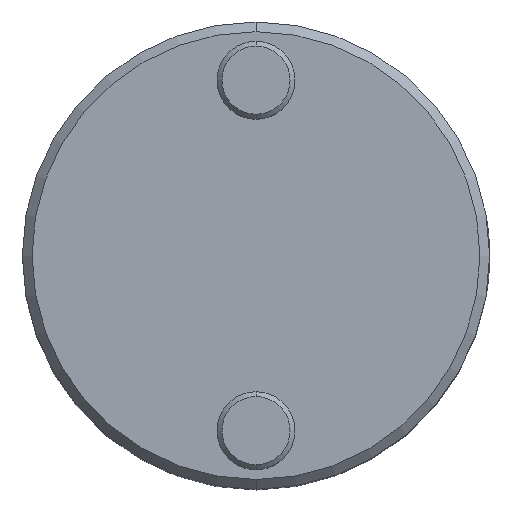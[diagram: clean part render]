
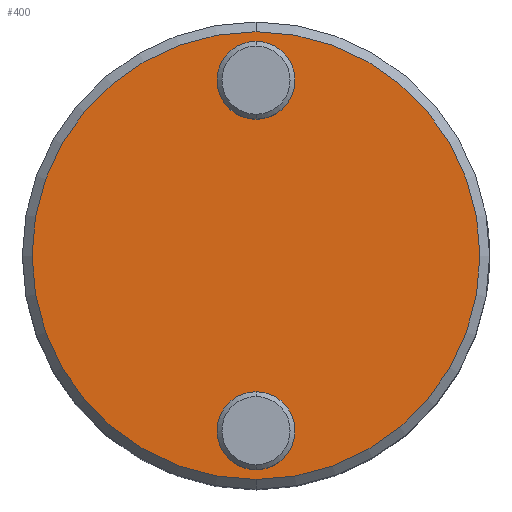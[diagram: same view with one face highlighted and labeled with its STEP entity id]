
A CAD part, top view. The second image highlights one B-rep face of the part: STEP entity #400.
In plain terms, the highlighted planar face has unit normal (0, 0, 1).
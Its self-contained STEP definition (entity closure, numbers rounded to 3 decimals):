
#1=CARTESIAN_POINT('',(0.,0.,0.));
#2=DIRECTION('',(0.,0.,1.));
#3=DIRECTION('',(0.,1.,0.));
#4=AXIS2_PLACEMENT_3D('',#1,#2,#3);
#6=CARTESIAN_POINT('',(0.,0.,
0.));
#7=DIRECTION('',(0.,0.,1.));
#8=DIRECTION('',(0.,-1.,0.));
#9=AXIS2_PLACEMENT_3D('',#6,#7,#8);
#11=CARTESIAN_POINT('',(0.,18.,0.));
#12=DIRECTION('',(0.,0.,1.));
#13=DIRECTION('',(0.,1.,0.));
#14=AXIS2_PLACEMENT_3D('',#11,#12,#13);
#16=CARTESIAN_POINT('',(0.,18.,0.));
#17=DIRECTION('',(0.,0.,1.));
#18=DIRECTION('',(0.,-1.,0.));
#19=AXIS2_PLACEMENT_3D('',#16,#17,#18);
#21=CARTESIAN_POINT('',(0.,-18.,0.));
#22=DIRECTION('',(0.,0.,1.));
#23=DIRECTION('',(0.,1.,0.));
#24=AXIS2_PLACEMENT_3D('',#21,#22,#23);
#26=CARTESIAN_POINT('',(0.,-18.,0.));
#27=DIRECTION('',(0.,0.,1.));
#28=DIRECTION('',(0.,-1.,0.));
#29=AXIS2_PLACEMENT_3D('',#26,#27,#28);
#327=CARTESIAN_POINT('',(0.,23.,0.));
#328=CARTESIAN_POINT('',(0.,-23.,0.));
#329=VERTEX_POINT('',#327);
#330=VERTEX_POINT('',#328);
#353=CARTESIAN_POINT('',(0.,22.,0.));
#354=CARTESIAN_POINT('',(0.,14.,0.));
#355=VERTEX_POINT('',#353);
#356=VERTEX_POINT('',#354);
#357=CARTESIAN_POINT('',(0.,-14.,0.));
#358=CARTESIAN_POINT('',(0.,-22.,0.));
#359=VERTEX_POINT('',#357);
#360=VERTEX_POINT('',#358);
#377=CARTESIAN_POINT('',(0.,0.,0.));
#378=DIRECTION('',(0.,0.,-1.));
#379=DIRECTION('',(0.,-1.,0.));
#380=AXIS2_PLACEMENT_3D('',#377,#378,#379);
#381=PLANE('',#380);
#383=ORIENTED_EDGE('',*,*,#382,.F.);
#385=ORIENTED_EDGE('',*,*,#384,.F.);
#386=EDGE_LOOP('',(#383,#385));
#387=FACE_OUTER_BOUND('',#386,.F.);
#389=ORIENTED_EDGE('',*,*,#388,.T.);
#391=ORIENTED_EDGE('',*,*,#390,.T.);
#392=EDGE_LOOP('',(#389,#391));
#393=FACE_BOUND('',#392,.F.);
#395=ORIENTED_EDGE('',*,*,#394,.T.);
#397=ORIENTED_EDGE('',*,*,#396,.T.);
#398=EDGE_LOOP('',(#395,#397));
#399=FACE_BOUND('',#398,.F.);
#400=ADVANCED_FACE('',(#387,#393,#399),#381,.F.);
#5=CIRCLE('',#4,23.);
#10=CIRCLE('',#9,23.);
#15=CIRCLE('',#14,4.);
#20=CIRCLE('',#19,4.);
#25=CIRCLE('',#24,4.);
#30=CIRCLE('',#29,4.);
#382=EDGE_CURVE('',#329,#330,#5,.T.);
#384=EDGE_CURVE('',#330,#329,#10,.T.);
#388=EDGE_CURVE('',#355,#356,#15,.T.);
#390=EDGE_CURVE('',#356,#355,#20,.T.);
#394=EDGE_CURVE('',#359,#360,#25,.T.);
#396=EDGE_CURVE('',#360,#359,#30,.T.);
